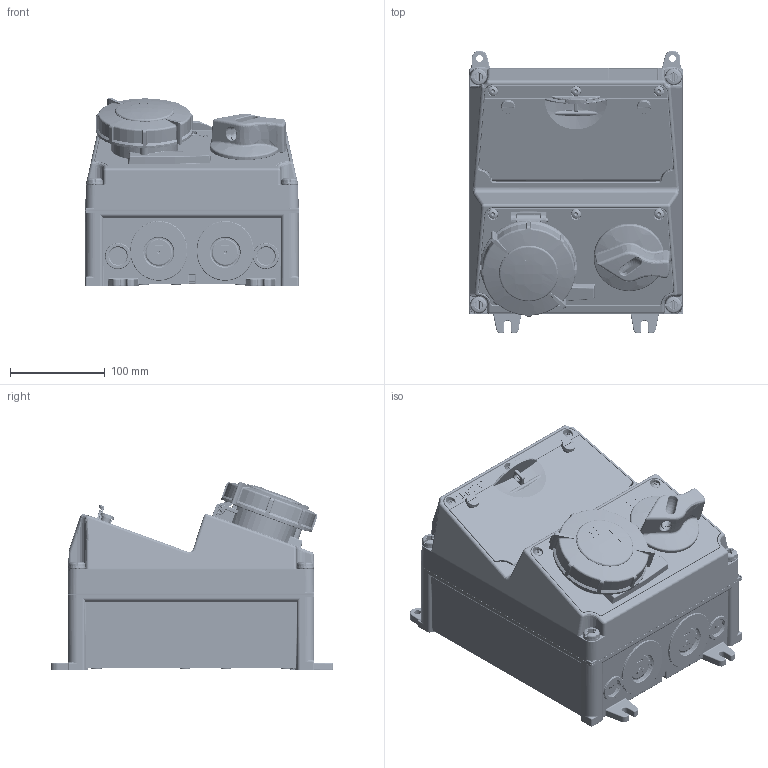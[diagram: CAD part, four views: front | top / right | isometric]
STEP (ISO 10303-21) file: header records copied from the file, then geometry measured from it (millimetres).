
FILE_DESCRIPTION((''),'2;1');
FILE_NAME('922629-1_ASM_1_ASM','2018-08-20T',('kremer'),('MENNEKES'),'PRO/ENGINEER BY PARAMETRIC TECHNOLOGY CORPORATION, 2015440','PRO/ENGINEER BY PARAMETRIC TECHNOLOGY CORPORATION, 2015440','');
FILE_SCHEMA(('AUTOMOTIVE_DESIGN { 1 0 10303 214 1 1 1 1 }'));
Products named in the file (10): 2-4_SW_O_GRAU_1; MANIFOLD_SOLID_BREP_203513; MANIFOLD_SOLID_BREP_291876; MANIFOLD_SOLID_BREP_292213; MANIFOLD_SOLID_BREP_294692; FI_4POL_4TE_1_ASM; LS_4POL_4TE_1; MP_FEN10_67_OBEN_GRAU_1; MP_DUO_32_5_67_ROT_GRAU_1; 922629-1_ASM_1_ASM
Assembly tree (9 placements, depth 3):
  922629-1_ASM_1_ASM
    2-4_SW_O_GRAU_1
    FI_4POL_4TE_1_ASM
      MANIFOLD_SOLID_BREP_203513
      MANIFOLD_SOLID_BREP_291876
      MANIFOLD_SOLID_BREP_292213
      MANIFOLD_SOLID_BREP_294692
    LS_4POL_4TE_1
    MP_FEN10_67_OBEN_GRAU_1
    MP_DUO_32_5_67_ROT_GRAU_1
Bounding box: 225 x 298.2 x 199.08 mm (x, y, z)
Volume: 6505863 mm3; surface area: 754486.1 mm2
Topology: 8 solids, 8 shells, 10762 faces, 29743 edges, 18998 vertices
Faces by surface type: plane 6017, cylinder 2533, bspline 899, torus 718, cone 295, sphere 192, extrusion 108
Entity records: 511484 total; most frequent: CARTESIAN_POINT 134725, ORIENTED_EDGE 59100, DIRECTION 51499, EDGE_CURVE 29550, PRESENTATION_STYLE_ASSIGNMENT 21249, VERTEX_POINT 18998, VECTOR 18915, LINE 18807
